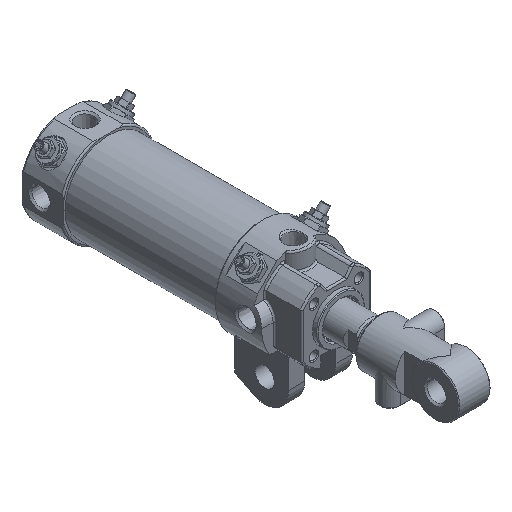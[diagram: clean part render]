
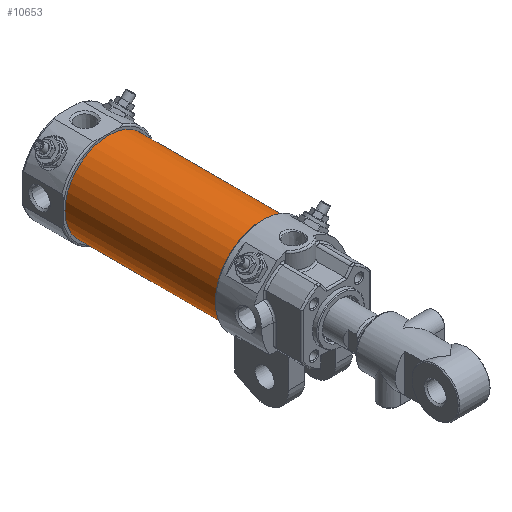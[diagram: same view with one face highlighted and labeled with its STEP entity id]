
A CAD part, isometric view. The second image highlights one B-rep face of the part: STEP entity #10653.
In plain terms, the highlighted cylindrical face has radius 27.5 mm (diameter 55 mm), a full revolution.
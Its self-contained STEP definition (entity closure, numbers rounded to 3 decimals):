
#2742=CARTESIAN_POINT('',(27.5,146.0,0.));
#2743=VERTEX_POINT('',#2742);
#2744=CARTESIAN_POINT('',(0.,146.0,0.));
#2745=DIRECTION('',(0.0,-1.0,0.0));
#2746=DIRECTION('',(-1.0,0.0,0.0));
#2747=AXIS2_PLACEMENT_3D('',#2744,#2745,#2746);
#2748=CIRCLE('',#2747,27.5);
#2749=EDGE_CURVE('',#2743,#2743,#2748,.T.);
#10630=CARTESIAN_POINT('',(27.5,50.,0.));
#10631=VERTEX_POINT('',#10630);
#10632=CARTESIAN_POINT('',(0.,50.,0.));
#10633=DIRECTION('',(0.0,-1.0,0.0));
#10634=DIRECTION('',(-1.0,0.0,0.0));
#10635=AXIS2_PLACEMENT_3D('',#10632,#10633,#10634);
#10636=CIRCLE('',#10635,27.5);
#10637=EDGE_CURVE('',#10631,#10631,#10636,.T.);
#10642=CARTESIAN_POINT('',(0.,50.,0.));
#10643=DIRECTION('',(0.0,1.0,0.));
#10644=DIRECTION('',(-1.0,0.0,0.0));
#10645=AXIS2_PLACEMENT_3D('',#10642,#10643,#10644);
#10646=CYLINDRICAL_SURFACE('',#10645,27.5);
#10647=ORIENTED_EDGE('',*,*,#2749,.T.);
#10648=EDGE_LOOP('',(#10647));
#10649=FACE_OUTER_BOUND('',#10648,.T.);
#10650=ORIENTED_EDGE('',*,*,#10637,.F.);
#10651=EDGE_LOOP('',(#10650));
#10652=FACE_BOUND('',#10651,.T.);
#10653=ADVANCED_FACE('',(#10649,#10652),#10646,.T.);
